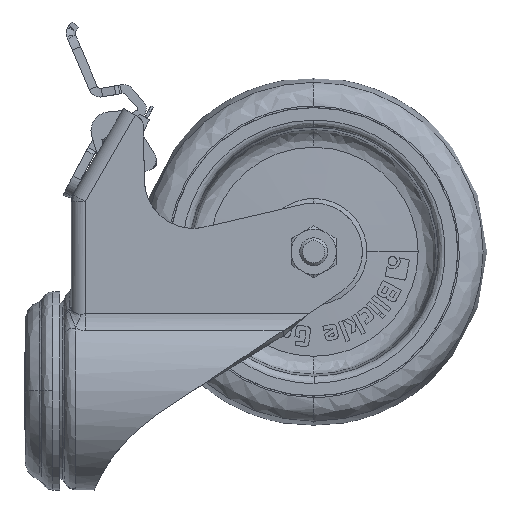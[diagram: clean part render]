
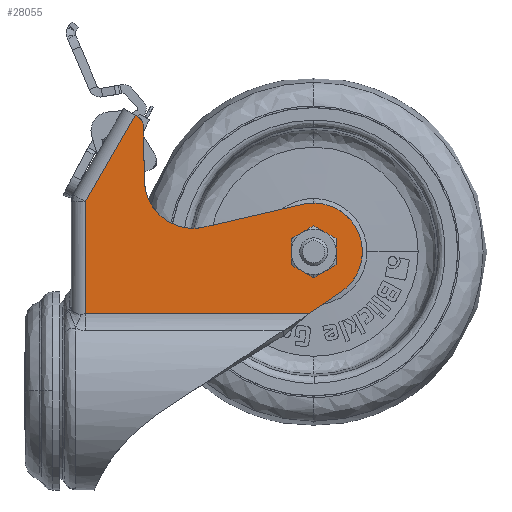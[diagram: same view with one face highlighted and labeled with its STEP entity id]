
A CAD part, left-side view. The second image highlights one B-rep face of the part: STEP entity #28055.
In plain terms, the highlighted planar face has unit normal (-1, 0, 0).
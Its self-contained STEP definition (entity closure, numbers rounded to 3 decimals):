
#381 = CARTESIAN_POINT ( 'NONE',  ( -21., -96.962, 41.82 ) ) ;
#1063 = CARTESIAN_POINT ( 'NONE',  ( -21., -34.048, 76.203 ) ) ;
#1637 = LINE ( 'NONE', #9637, #104077 ) ;
#1972 = CARTESIAN_POINT ( 'NONE',  ( -21., -93.898, 48.916 ) ) ;
#2022 = LINE ( 'NONE', #10567, #16502 ) ;
#2520 = CARTESIAN_POINT ( 'NONE',  ( -21., -82.415, 54.068 ) ) ;
#2677 = DIRECTION ( 'NONE',  ( 0., 0.5, -0.866 ) ) ;
#3315 = B_SPLINE_CURVE_WITH_KNOTS ( 'NONE', 3,
 ( #17141, #34289, #74428, #41775, #81449, #33772, #57318, #66904, #26248, #57831, #40730, #18192, #16076 ),
 .UNSPECIFIED., .F., .F.,
 ( 4, 1, 1, 1, 1, 1, 1, 1, 1, 1, 4 ),
 ( 0., 0.002, 0.005, 0.007, 0.01, 0.012, 0.015, 0.017, 0.02, 0.022, 0.025 ),
 .UNSPECIFIED. ) ;
#4247 = ORIENTED_EDGE ( 'NONE', *, *, #38131, .T. ) ;
#6588 = CARTESIAN_POINT ( 'NONE',  ( -21., -81.494, 22.164 ) ) ;
#8156 = VERTEX_POINT ( 'NONE', #94540 ) ;
#8661 = ORIENTED_EDGE ( 'NONE', *, *, #11592, .T. ) ;
#8951 = LINE ( 'NONE', #41039, #30116 ) ;
#9637 = CARTESIAN_POINT ( 'NONE',  ( -21., -32.115, 78.999 ) ) ;
#10567 = CARTESIAN_POINT ( 'NONE',  ( -21., -57.178, 22.164 ) ) ;
#11306 = AXIS2_PLACEMENT_3D ( 'NONE', #60233, #94552, #84893 ) ;
#11592 = EDGE_CURVE ( 'NONE', #61186, #8156, #8951, .T. ) ;
#11695 = CARTESIAN_POINT ( 'NONE',  ( -21., -31.682, 79.249 ) ) ;
#12315 = ORIENTED_EDGE ( 'NONE', *, *, #49073, .T. ) ;
#16076 = CARTESIAN_POINT ( 'NONE',  ( -21., -34.322, 60.486 ) ) ;
#16078 = EDGE_CURVE ( 'NONE', #67343, #51975, #1637, .T. ) ;
#16502 = VECTOR ( 'NONE', #76387, 1000. ) ;
#17000 = VERTEX_POINT ( 'NONE', #23094 ) ;
#17141 = CARTESIAN_POINT ( 'NONE',  ( -21., -51.469, 47.089 ) ) ;
#17436 = CARTESIAN_POINT ( 'NONE',  ( -21., -92.84, 29.928 ) ) ;
#17743 = CARTESIAN_POINT ( 'NONE',  ( -21., -34.322, 60.486 ) ) ;
#17986 = ORIENTED_EDGE ( 'NONE', *, *, #74614, .T. ) ;
#18192 = CARTESIAN_POINT ( 'NONE',  ( -21., -34.336, 59.655 ) ) ;
#18479 = CARTESIAN_POINT ( 'NONE',  ( -21., -97.059, 39.216 ) ) ;
#18755 = ORIENTED_EDGE ( 'NONE', *, *, #76409, .T. ) ;
#19023 = CARTESIAN_POINT ( 'NONE',  ( -21., -80.693, 53.836 ) ) ;
#23094 = CARTESIAN_POINT ( 'NONE',  ( -21., -81.494, 22.164 ) ) ;
#25490 = CARTESIAN_POINT ( 'NONE',  ( -21., -96.388, 44.362 ) ) ;
#26009 = CARTESIAN_POINT ( 'NONE',  ( -21., -90.771, 28.355 ) ) ;
#26248 = CARTESIAN_POINT ( 'NONE',  ( -21., -36.333, 53.355 ) ) ;
#26413 = EDGE_CURVE ( 'NONE', #73460, #62323, #87941, .T. ) ;
#26540 = CARTESIAN_POINT ( 'NONE',  ( -21., -95.354, 46.755 ) ) ;
#26934 = LINE ( 'NONE', #59560, #44973 ) ;
#28055 = ADVANCED_FACE ( 'NONE', ( #68788 ), #77897, .T. ) ;
#30116 = VECTOR ( 'NONE', #73685, 1000. ) ;
#32226 = CARTESIAN_POINT ( 'NONE',  ( -21., -34.322, 60.486 ) ) ;
#33772 = CARTESIAN_POINT ( 'NONE',  ( -21., -41.756, 48.28 ) ) ;
#34053 = CARTESIAN_POINT ( 'NONE',  ( -21., -92.069, 50.771 ) ) ;
#34176 = VERTEX_POINT ( 'NONE', #34314 ) ;
#34289 = CARTESIAN_POINT ( 'NONE',  ( -21., -50.66, 46.902 ) ) ;
#34314 = CARTESIAN_POINT ( 'NONE',  ( -21., -79.851, 53.641 ) ) ;
#34329 = DIRECTION ( 'NONE',  ( 0., 0.017, 1. ) ) ;
#34743 = CARTESIAN_POINT ( 'NONE',  ( -21., -24.516, 66.837 ) ) ;
#36700 = EDGE_CURVE ( 'NONE', #51975, #61186, #67887, .T. ) ;
#37919 = VERTEX_POINT ( 'NONE', #92760 ) ;
#38131 = EDGE_CURVE ( 'NONE', #17000, #37919, #97554, .T. ) ;
#40730 = CARTESIAN_POINT ( 'NONE',  ( -21., -34.514, 57.996 ) ) ;
#40951 = ORIENTED_EDGE ( 'NONE', *, *, #16078, .T. ) ;
#41039 = CARTESIAN_POINT ( 'NONE',  ( -21., -17.35, 50.706 ) ) ;
#41235 = DIRECTION ( 'NONE',  ( 0., 0.974, -0.225 ) ) ;
#41775 = CARTESIAN_POINT ( 'NONE',  ( -21., -46.507, 46.773 ) ) ;
#42069 = CARTESIAN_POINT ( 'NONE',  ( -21., -94.527, 31.914 ) ) ;
#43094 = CARTESIAN_POINT ( 'NONE',  ( -21., -33.662, 77.69 ) ) ;
#43135 = CARTESIAN_POINT ( 'NONE',  ( -21., -95.82, 34.177 ) ) ;
#44973 = VECTOR ( 'NONE', #41235, 1000. ) ;
#47833 = CARTESIAN_POINT ( 'NONE',  ( -21., -32.548, 78.749 ) ) ;
#49073 = EDGE_CURVE ( 'NONE', #34176, #54962, #26934, .T. ) ;
#51195 = CARTESIAN_POINT ( 'NONE',  ( -21., -89.928, 52.258 ) ) ;
#51724 = CARTESIAN_POINT ( 'NONE',  ( -21., -96.673, 36.639 ) ) ;
#51975 = VERTEX_POINT ( 'NONE', #11695 ) ;
#54305 = B_SPLINE_CURVE_WITH_KNOTS ( 'NONE', 3,
 ( #82224, #99385, #65582, #43094, #73623, #75761, #81705 ),
 .UNSPECIFIED., .F., .F.,
 ( 4, 1, 1, 1, 4 ),
 ( 0., 0.001, 0.002, 0.002, 0.003 ),
 .UNSPECIFIED. ) ;
#54677 = ORIENTED_EDGE ( 'NONE', *, *, #26413, .T. ) ;
#54962 = VERTEX_POINT ( 'NONE', #79364 ) ;
#56244 = ORIENTED_EDGE ( 'NONE', *, *, #88877, .T. ) ;
#57318 = CARTESIAN_POINT ( 'NONE',  ( -21., -39.655, 49.639 ) ) ;
#57831 = CARTESIAN_POINT ( 'NONE',  ( -21., -35.216, 55.595 ) ) ;
#58838 = DIRECTION ( 'NONE',  ( 0., 0.866, 0.5 ) ) ;
#59560 = CARTESIAN_POINT ( 'NONE',  ( -21., -79.851, 53.641 ) ) ;
#60233 = CARTESIAN_POINT ( 'NONE',  ( -21., -15.757, 21.022 ) ) ;
#61186 = VERTEX_POINT ( 'NONE', #64410 ) ;
#62323 = VERTEX_POINT ( 'NONE', #1063 ) ;
#64058 = EDGE_CURVE ( 'NONE', #54962, #73460, #3315, .T. ) ;
#64410 = CARTESIAN_POINT ( 'NONE',  ( -21., -17.35, 54.425 ) ) ;
#65582 = CARTESIAN_POINT ( 'NONE',  ( -21., -33.968, 76.974 ) ) ;
#66663 = CARTESIAN_POINT ( 'NONE',  ( -21., -79.851, 53.641 ) ) ;
#66904 = CARTESIAN_POINT ( 'NONE',  ( -21., -37.828, 51.349 ) ) ;
#67343 = VERTEX_POINT ( 'NONE', #47833 ) ;
#67887 = LINE ( 'NONE', #34743, #105929 ) ;
#68788 = FACE_OUTER_BOUND ( 'NONE', #69880, .T. ) ;
#69880 = EDGE_LOOP ( 'NONE', ( #90056, #8661, #18755, #4247, #56244, #12315, #99910, #54677, #17986, #40951 ) ) ;
#73460 = VERTEX_POINT ( 'NONE', #17743 ) ;
#73623 = CARTESIAN_POINT ( 'NONE',  ( -21., -33.184, 78.305 ) ) ;
#73685 = DIRECTION ( 'NONE',  ( 0., 0., -1. ) ) ;
#74129 = VECTOR ( 'NONE', #34329, 1000. ) ;
#74428 = CARTESIAN_POINT ( 'NONE',  ( -21., -49.007, 46.673 ) ) ;
#74614 = EDGE_CURVE ( 'NONE', #62323, #67343, #54305, .T. ) ;
#75761 = CARTESIAN_POINT ( 'NONE',  ( -21., -32.771, 78.62 ) ) ;
#75804 = CARTESIAN_POINT ( 'NONE',  ( -21., -87.551, 53.325 ) ) ;
#76387 = DIRECTION ( 'NONE',  ( 0., -1., 0. ) ) ;
#76409 = EDGE_CURVE ( 'NONE', #8156, #17000, #2022, .T. ) ;
#77897 = PLANE ( 'NONE',  #11306 ) ;
#79364 = CARTESIAN_POINT ( 'NONE',  ( -21., -51.469, 47.089 ) ) ;
#81449 = CARTESIAN_POINT ( 'NONE',  ( -21., -44.064, 47.315 ) ) ;
#81705 = CARTESIAN_POINT ( 'NONE',  ( -21., -32.548, 78.749 ) ) ;
#82224 = CARTESIAN_POINT ( 'NONE',  ( -21., -34.048, 76.203 ) ) ;
#83321 = CARTESIAN_POINT ( 'NONE',  ( -21., -85.018, 53.935 ) ) ;
#84893 = DIRECTION ( 'NONE',  ( 0., 0., 1. ) ) ;
#87076 = VECTOR ( 'NONE', #104548, 1000. ) ;
#87941 = LINE ( 'NONE', #32226, #74129 ) ;
#88877 = EDGE_CURVE ( 'NONE', #37919, #34176, #89474, .T. ) ;
#89474 = B_SPLINE_CURVE_WITH_KNOTS ( 'NONE', 3,
 ( #26009, #91329, #17436, #42069, #43135, #51724, #18479, #381, #25490, #26540, #1972, #34053, #51195, #75804, #83321, #2520, #19023, #66663 ),
 .UNSPECIFIED., .F., .F.,
 ( 4, 1, 1, 1, 1, 1, 1, 1, 1, 1, 1, 1, 1, 1, 1, 4 ),
 ( 0., 0.003, 0.005, 0.008, 0.01, 0.013, 0.015, 0.018, 0.021, 0.023, 0.026, 0.028, 0.031, 0.034, 0.036, 0.039 ),
 .UNSPECIFIED. ) ;
#90056 = ORIENTED_EDGE ( 'NONE', *, *, #36700, .T. ) ;
#91329 = CARTESIAN_POINT ( 'NONE',  ( -21., -91.49, 28.835 ) ) ;
#92760 = CARTESIAN_POINT ( 'NONE',  ( -21., -90.771, 28.355 ) ) ;
#94540 = CARTESIAN_POINT ( 'NONE',  ( -21., -17.35, 22.164 ) ) ;
#94552 = DIRECTION ( 'NONE',  ( -1., 0., 0. ) ) ;
#97554 = LINE ( 'NONE', #6588, #87076 ) ;
#99385 = CARTESIAN_POINT ( 'NONE',  ( -21., -34.043, 76.46 ) ) ;
#99910 = ORIENTED_EDGE ( 'NONE', *, *, #64058, .T. ) ;
#104077 = VECTOR ( 'NONE', #58838, 1000. ) ;
#104548 = DIRECTION ( 'NONE',  ( 0., -0.832, 0.555 ) ) ;
#105929 = VECTOR ( 'NONE', #2677, 1000. ) ;
